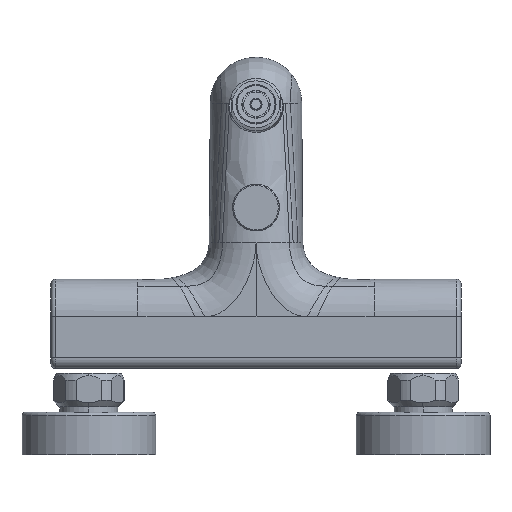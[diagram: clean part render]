
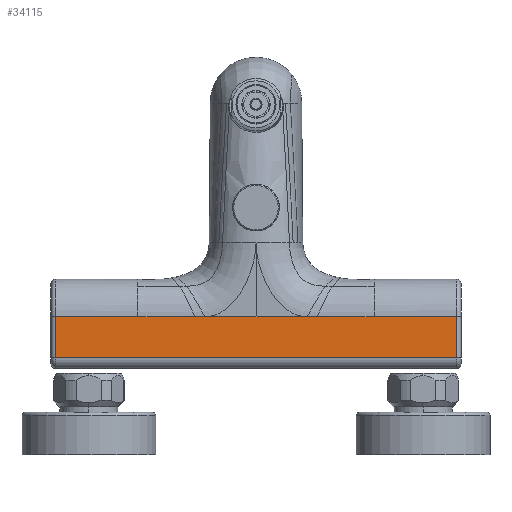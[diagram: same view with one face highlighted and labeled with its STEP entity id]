
A CAD part, front view. The second image highlights one B-rep face of the part: STEP entity #34115.
In plain terms, the highlighted planar face has unit normal (0, -1, 0).
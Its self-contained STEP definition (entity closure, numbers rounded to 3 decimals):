
#6771=DIRECTION('',(1.,0.,0.));
#6772=VECTOR('',#6771,4.549);
#6773=CARTESIAN_POINT('',(-27.549,-16.3,
0.25));
#6774=LINE('',#6773,#6772);
#6790=DIRECTION('',(0.,0.,1.));
#6791=VECTOR('',#6790,18.55);
#6792=CARTESIAN_POINT('',(90.,-16.3,-18.3));
#6793=LINE('',#6792,#6791);
#6794=DIRECTION('',(1.,0.,0.));
#6795=VECTOR('',#6794,180.);
#6796=CARTESIAN_POINT('',(-90.,-16.3,-18.3));
#6797=LINE('',#6796,#6795);
#6798=DIRECTION('',(0.,0.,-1.));
#6799=VECTOR('',#6798,18.55);
#6800=CARTESIAN_POINT('',(-90.,-16.3,0.25));
#6801=LINE('',#6800,#6799);
#6802=DIRECTION('',(-1.,0.,0.));
#6803=VECTOR('',#6802,37.);
#6804=CARTESIAN_POINT('',(-53.,-16.3,0.25));
#6805=LINE('',#6804,#6803);
#6806=DIRECTION('',(-1.,0.,0.));
#6807=VECTOR('',#6806,37.);
#6808=CARTESIAN_POINT('',(90.,-16.3,0.25));
#6809=LINE('',#6808,#6807);
#6861=DIRECTION('',(-1.,0.,0.));
#6862=VECTOR('',#6861,25.451);
#6863=CARTESIAN_POINT('',(53.,-16.3,0.25));
#6864=LINE('',#6863,#6862);
#6879=DIRECTION('',(-1.,0.,0.));
#6880=VECTOR('',#6879,4.549);
#6881=CARTESIAN_POINT('',(27.549,-16.3,
0.25));
#6882=LINE('',#6881,#6880);
#6898=CARTESIAN_POINT('',(23.,-16.3,
0.25));
#6899=CARTESIAN_POINT('',(22.963,-16.3,
0.25));
#6900=CARTESIAN_POINT('',(22.892,-16.3,
0.25));
#6901=CARTESIAN_POINT('',(22.789,-16.3,
0.252));
#6902=CARTESIAN_POINT('',(22.732,-16.3,
0.252));
#6903=CARTESIAN_POINT('',(22.702,-16.3,
0.251));
#6982=DIRECTION('',(-1.,0.,0.));
#6983=VECTOR('',#6982,22.702);
#6984=CARTESIAN_POINT('',(22.702,-16.3,
0.251));
#6985=LINE('',#6984,#6983);
#6990=DIRECTION('',(-1.,0.,0.));
#6991=VECTOR('',#6990,22.702);
#6992=CARTESIAN_POINT('',(0.,-16.3,0.25));
#6993=LINE('',#6992,#6991);
#6994=CARTESIAN_POINT('',(-23.,-16.3,
0.25));
#6995=CARTESIAN_POINT('',(-22.963,-16.3,
0.25));
#6996=CARTESIAN_POINT('',(-22.892,-16.3,
0.25));
#6997=CARTESIAN_POINT('',(-22.789,-16.3,
0.252));
#6998=CARTESIAN_POINT('',(-22.732,-16.3,
0.252));
#6999=CARTESIAN_POINT('',(-22.702,-16.3,
0.251));
#8396=DIRECTION('',(1.,0.,0.));
#8397=VECTOR('',#8396,25.451);
#8398=CARTESIAN_POINT('',(-53.,-16.3,0.25));
#8399=LINE('',#8398,#8397);
#22577=CARTESIAN_POINT('',(-53.,-16.3,0.25));
#22578=CARTESIAN_POINT('',(-27.549,-16.3,
0.25));
#22579=VERTEX_POINT('',#22577);
#22580=VERTEX_POINT('',#22578);
#22583=CARTESIAN_POINT('',(-23.,-16.3,
0.25));
#22584=VERTEX_POINT('',#22583);
#22585=VERTEX_POINT('',#6999);
#22587=CARTESIAN_POINT('',(53.,-16.3,0.25));
#22589=VERTEX_POINT('',#22587);
#22590=CARTESIAN_POINT('',(27.549,-16.3,
0.25));
#22591=VERTEX_POINT('',#22590);
#22592=CARTESIAN_POINT('',(23.,-16.3,
0.25));
#22593=VERTEX_POINT('',#22592);
#22594=VERTEX_POINT('',#6903);
#22595=CARTESIAN_POINT('',(0.,-16.3,0.25));
#22596=VERTEX_POINT('',#22595);
#22624=CARTESIAN_POINT('',(90.,-16.3,0.25));
#22626=VERTEX_POINT('',#22624);
#22630=CARTESIAN_POINT('',(90.,-16.3,-18.3));
#22631=VERTEX_POINT('',#22630);
#22654=CARTESIAN_POINT('',(-90.,-16.3,-18.3));
#22655=VERTEX_POINT('',#22654);
#22658=CARTESIAN_POINT('',(-90.,-16.3,0.25));
#22659=VERTEX_POINT('',#22658);
#34083=CARTESIAN_POINT('',(-92.,-16.3,0.25));
#34084=DIRECTION('',(0.,-1.,0.));
#34085=DIRECTION('',(0.,0.,-1.));
#34086=AXIS2_PLACEMENT_3D('',#34083,#34084,#34085);
#34087=PLANE('',#34086);
#34089=ORIENTED_EDGE('',*,*,#34088,.F.);
#34091=ORIENTED_EDGE('',*,*,#34090,.F.);
#34093=ORIENTED_EDGE('',*,*,#34092,.F.);
#34095=ORIENTED_EDGE('',*,*,#34094,.F.);
#34097=ORIENTED_EDGE('',*,*,#34096,.T.);
#34098=ORIENTED_EDGE('',*,*,#34073,.T.);
#34100=ORIENTED_EDGE('',*,*,#34099,.T.);
#34102=ORIENTED_EDGE('',*,*,#34101,.F.);
#34104=ORIENTED_EDGE('',*,*,#34103,.F.);
#34106=ORIENTED_EDGE('',*,*,#34105,.F.);
#34108=ORIENTED_EDGE('',*,*,#34107,.F.);
#34110=ORIENTED_EDGE('',*,*,#34109,.F.);
#34112=ORIENTED_EDGE('',*,*,#34111,.F.);
#34113=EDGE_LOOP('',(#34089,#34091,#34093,#34095,#34097,#34098,#34100,#34102,
#34104,#34106,#34108,#34110,#34112));
#34114=FACE_OUTER_BOUND('',#34113,.F.);
#34115=ADVANCED_FACE('',(#34114),#34087,.T.);
#6904=B_SPLINE_CURVE_WITH_KNOTS('',3,(#6898,#6899,#6900,#6901,#6902,#6903),
.UNSPECIFIED.,.F.,.F.,(4,1,1,4),(0.,0.333,0.667,1.),
.UNSPECIFIED.);
#7000=B_SPLINE_CURVE_WITH_KNOTS('',3,(#6994,#6995,#6996,#6997,#6998,#6999),
.UNSPECIFIED.,.F.,.F.,(4,1,1,4),(0.,0.333,0.667,1.),
.UNSPECIFIED.);
#34073=EDGE_CURVE('',#22580,#22584,#6774,.T.);
#34088=EDGE_CURVE('',#22631,#22626,#6793,.T.);
#34090=EDGE_CURVE('',#22655,#22631,#6797,.T.);
#34092=EDGE_CURVE('',#22659,#22655,#6801,.T.);
#34094=EDGE_CURVE('',#22579,#22659,#6805,.T.);
#34096=EDGE_CURVE('',#22579,#22580,#8399,.T.);
#34099=EDGE_CURVE('',#22584,#22585,#7000,.T.);
#34101=EDGE_CURVE('',#22596,#22585,#6993,.T.);
#34103=EDGE_CURVE('',#22594,#22596,#6985,.T.);
#34105=EDGE_CURVE('',#22593,#22594,#6904,.T.);
#34107=EDGE_CURVE('',#22591,#22593,#6882,.T.);
#34109=EDGE_CURVE('',#22589,#22591,#6864,.T.);
#34111=EDGE_CURVE('',#22626,#22589,#6809,.T.);
